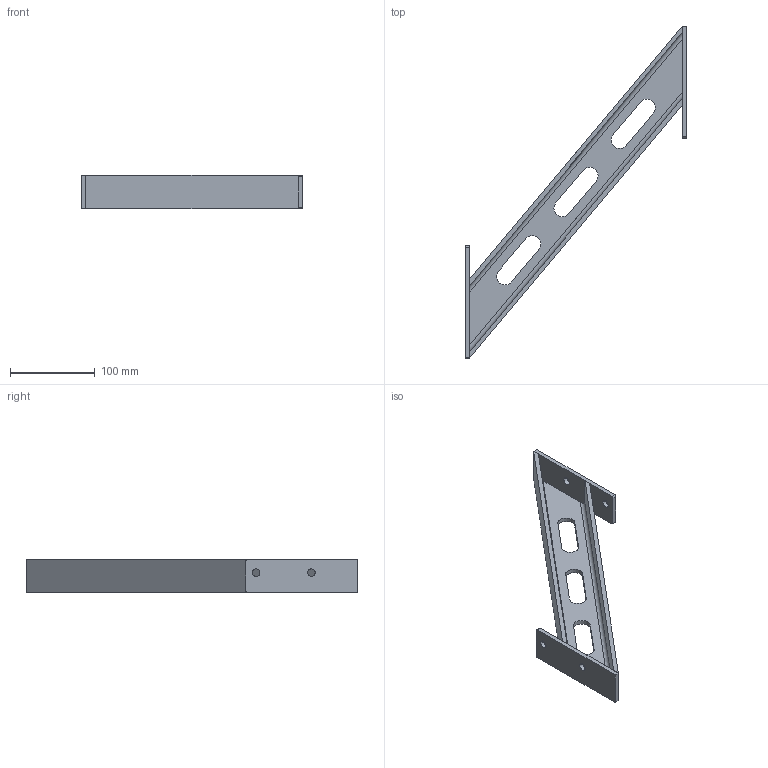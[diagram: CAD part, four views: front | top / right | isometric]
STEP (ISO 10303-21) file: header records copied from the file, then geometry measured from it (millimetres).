
FILE_DESCRIPTION (( 'STEP AP214' ), '1' );
FILE_NAME ('ÂØÀÅ.301722.001 Ïåðåìû÷êà.STEP', '2024-04-17T12:58:28', ( '' ), ( '' ), 'SwSTEP 2.0', 'SolidWorks 2019', '' );
FILE_SCHEMA (( 'AUTOMOTIVE_DESIGN' ));
Length unit declared in the file: millimetre
Products named in the file (3): ÂØÀÅ.746215.001 Ïåðåìû÷êà; ÂØÀÅ.741124.123 Ïëàñòèíà_149å40; ÂØÀÅ.301722.001 Ïåðåìû÷êà
Assembly tree (3 placements, depth 2):
  ÂØÀÅ.301722.001 Ïåðåìû÷êà
    ÂØÀÅ.746215.001 Ïåðåìû÷êà
    ÂØÀÅ.741124.123 Ïëàñòèíà_149å40  x2
Bounding box: 260 x 391.28 x 40 mm (x, y, z)
Volume: 288776.5 mm3; surface area: 124547.9 mm2
Topology: 3 solids, 3 shells, 48 faces, 126 edges, 84 vertices
Faces by surface type: plane 28, cylinder 20
Entity records: 1262 total; most frequent: CARTESIAN_POINT 214, DIRECTION 200, ORIENTED_EDGE 192, EDGE_CURVE 96, LINE 68, VECTOR 68, AXIS2_PLACEMENT_3D 66, VERTEX_POINT 64
